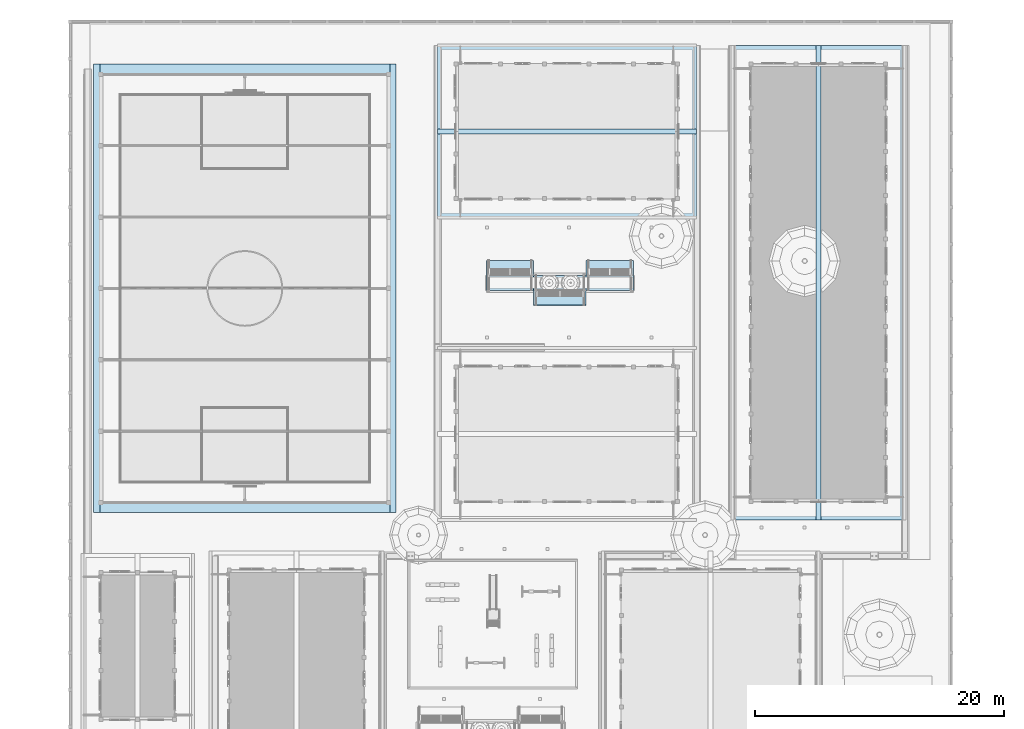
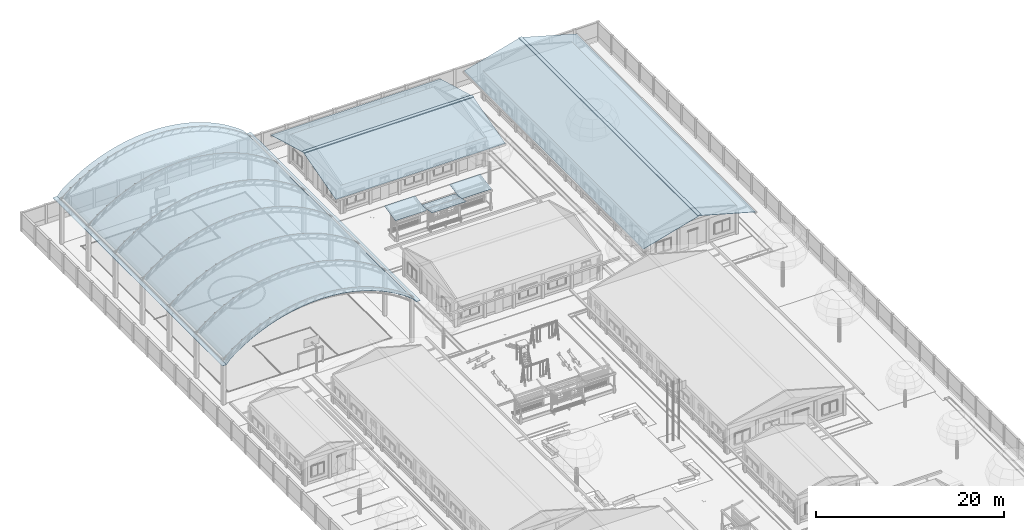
# One storey, part 41 of 177: 8 roofs.
"""IFC4 building model written with IfcOpenShell, lengths in metres."""

from ifc_helpers import new_model, si_unit, origin, origin_with_axes, place, context, subcontext, project, spatial, triangles, element, save


model = new_model("IFC4")

# Units and contexts
model_context = context("Model", 3, precision=1e-05, world=origin_with_axes())
body_context = subcontext(model_context, "Body", "Model", "MODEL_VIEW")
ifc_project = project(units=[si_unit("LENGTHUNIT", "METRE"), si_unit("AREAUNIT", "SQUARE_METRE"), si_unit("VOLUMEUNIT", "CUBIC_METRE"), si_unit("PLANEANGLEUNIT", "RADIAN")], contexts=[model_context])

# Site, building, storey
site_placement = place(None, origin_with_axes())
site = spatial("IfcSite", under=ifc_project, at=site_placement, Name="Predio Los Mangos - Morales, San Martín", CompositionType="ELEMENT")
building_placement = place(site_placement, origin())
building = spatial("IfcBuilding", under=site, at=building_placement, Name="Hogar de Refugio Temporal", CompositionType="ELEMENT")
storey_placement = place(building_placement, origin())
storey = spatial("IfcBuildingStorey", under=building, at=storey_placement, Name="NIVEL 1 (NPT +0.00)", CompositionType="ELEMENT", Elevation=0.0)

# Roofs
roof_1_placement = place(storey_placement, origin())
element("IfcRoof", 1, at=roof_1_placement, inside=storey, Name="E-08_techo", ObjectType="Cobertura", PredefinedType="NOTDEFINED", context=body_context, shape_type="Tessellation", body=[
    triangles([(30.5, 115.5, 3.33), (51.3, 115.5, 3.33), (51.3, 122.4, 5.262), (30.5, 122.4, 5.262), (51.3, 129.3, 3.33), (30.5, 129.3, 3.33), (30.5, 115.5135, 3.2819), (51.3, 115.5135, 3.2819), (51.3, 122.4, 5.212), (30.5, 122.4, 5.212), (51.3, 129.2865, 3.2819), (30.5, 129.2865, 3.2819)], [[1, 2, 3], [1, 3, 4], [4, 3, 5], [4, 5, 6], [7, 10, 9], [7, 9, 8], [10, 12, 11], [10, 11, 9], [1, 4, 10], [1, 10, 7], [2, 1, 7], [2, 7, 8], [3, 2, 8], [3, 8, 9], [4, 6, 12], [4, 12, 10], [5, 3, 9], [5, 9, 11], [6, 5, 11], [6, 11, 12]]),
])
roof_2_placement = place(storey_placement, origin())
element("IfcRoof", 2, at=roof_2_placement, inside=storey, Name="E-08_cumbrera", ObjectType="Cobertura", PredefinedType="NOTDEFINED", context=body_context, shape_type="Tessellation", body=[
    triangles([(30.5, 122.2, 5.242), (51.3, 122.2, 5.242), (51.3, 122.6, 5.242), (30.5, 122.6, 5.242), (30.5, 122.2, 5.322), (51.3, 122.2, 5.322), (51.3, 122.6, 5.322), (30.5, 122.6, 5.322)], [[1, 4, 3], [1, 3, 2], [5, 6, 7], [5, 7, 8], [1, 2, 6], [1, 6, 5], [2, 3, 7], [2, 7, 6], [3, 4, 8], [3, 8, 7], [4, 1, 5], [4, 5, 8]]),
])
roof_3_placement = place(storey_placement, origin())
element("IfcRoof", 3, at=roof_3_placement, inside=storey, Name="E-07_techo", ObjectType="Cobertura", PredefinedType="NOTDEFINED", context=body_context, shape_type="Tessellation", body=[
    triangles([(54.2, 91.2, 3.33), (61.1, 91.2, 5.262), (61.1, 129.3, 5.262), (54.2, 129.3, 3.33), (68.0, 91.2, 3.33), (68.0, 129.3, 3.33), (54.2135, 91.2, 3.2819), (61.1, 91.2, 5.212), (61.1, 129.3, 5.212), (54.2135, 129.3, 3.2819), (67.9865, 91.2, 3.2819), (67.9865, 129.3, 3.2819)], [[1, 2, 3], [1, 3, 4], [2, 5, 6], [2, 6, 3], [7, 10, 9], [7, 9, 8], [8, 9, 12], [8, 12, 11], [1, 4, 10], [1, 10, 7], [2, 1, 7], [2, 7, 8], [4, 3, 9], [4, 9, 10], [5, 2, 8], [5, 8, 11], [6, 5, 11], [6, 11, 12], [3, 6, 12], [3, 12, 9]]),
])
roof_4_placement = place(storey_placement, origin())
element("IfcRoof", 4, at=roof_4_placement, inside=storey, Name="E-07_cumbrera", ObjectType="Cobertura", PredefinedType="NOTDEFINED", context=body_context, shape_type="Tessellation", body=[
    triangles([(60.9, 91.2, 5.242), (61.3, 91.2, 5.242), (61.3, 129.3, 5.242), (60.9, 129.3, 5.242), (60.9, 91.2, 5.322), (61.3, 91.2, 5.322), (61.3, 129.3, 5.322), (60.9, 129.3, 5.322)], [[1, 4, 3], [1, 3, 2], [5, 6, 7], [5, 7, 8], [1, 2, 6], [1, 6, 5], [2, 3, 7], [2, 7, 6], [3, 4, 8], [3, 8, 7], [4, 1, 5], [4, 5, 8]]),
])
roof_5_placement = place(storey_placement, origin())
element("IfcRoof", 5, at=roof_5_placement, inside=storey, Name="cubierta_losa", ObjectType="Cobertura", PredefinedType="NOTDEFINED", context=body_context, shape_type="Tessellation", body=[
    triangles([(2.9, 91.8, 5.77), (3.4062, 91.8, 5.77), (3.9125, 91.8, 6.3555), (4.4187, 91.8, 6.7405), (4.925, 91.8, 7.0984), (5.4313, 91.8, 7.431), (5.9375, 91.8, 7.74), (6.4437, 91.8, 8.0267), (6.95, 91.8, 8.2923), (7.4563, 91.8, 8.5378), (7.9625, 91.8, 8.7643), (8.4688, 91.8, 8.9723), (8.975, 91.8, 9.1627), (9.4812, 91.8, 9.336), (9.9875, 91.8, 9.4926), (10.4937, 91.8, 9.6332), (11.0, 91.8, 9.758), (11.5063, 91.8, 9.8673), (12.0125, 91.8, 9.9616), (12.5188, 91.8, 10.0409), (13.025, 91.8, 10.1056), (13.5312, 91.8, 10.1557), (14.0375, 91.8, 10.1915), (14.5437, 91.8, 10.2129), (15.05, 91.8, 10.22), (15.5562, 91.8, 10.2129), (16.0625, 91.8, 10.1915), (16.5688, 91.8, 10.1557), (17.075, 91.8, 10.1056), (17.5812, 91.8, 10.0409), (18.0875, 91.8, 9.9616), (18.5938, 91.8, 9.8673), (19.1, 91.8, 9.758), (19.6063, 91.8, 9.6332), (20.1125, 91.8, 9.4926), (20.6187, 91.8, 9.336), (21.125, 91.8, 9.1627), (21.6313, 91.8, 8.9723), (22.1375, 91.8, 8.7643), (22.6437, 91.8, 8.5378), (23.15, 91.8, 8.2923), (23.6562, 91.8, 8.0267), (24.1625, 91.8, 7.74), (24.6688, 91.8, 7.431), (25.175, 91.8, 7.0984), (25.6812, 91.8, 6.7405), (26.1875, 91.8, 6.3555), (26.6938, 91.8, 5.77), (27.2, 91.8, 5.77), (2.9, 127.8, 5.77), (3.4062, 127.8, 5.77), (3.9125, 127.8, 6.3555), (4.4187, 127.8, 6.7405), (4.925, 127.8, 7.0984), (5.4313, 127.8, 7.431), (5.9375, 127.8, 7.74), (6.4437, 127.8, 8.0267), (6.95, 127.8, 8.2923), (7.4563, 127.8, 8.5378), (7.9625, 127.8, 8.7643), (8.4688, 127.8, 8.9723), (8.975, 127.8, 9.1627), (9.4812, 127.8, 9.336), (9.9875, 127.8, 9.4926), (10.4937, 127.8, 9.6332), (11.0, 127.8, 9.758), (11.5063, 127.8, 9.8673), (12.0125, 127.8, 9.9616), (12.5188, 127.8, 10.0409), (13.025, 127.8, 10.1056), (13.5312, 127.8, 10.1557), (14.0375, 127.8, 10.1915), (14.5437, 127.8, 10.2129), (15.05, 127.8, 10.22), (15.5562, 127.8, 10.2129), (16.0625, 127.8, 10.1915), (16.5688, 127.8, 10.1557), (17.075, 127.8, 10.1056), (17.5812, 127.8, 10.0409), (18.0875, 127.8, 9.9616), (18.5938, 127.8, 9.8673), (19.1, 127.8, 9.758), (19.6063, 127.8, 9.6332), (20.1125, 127.8, 9.4926), (20.6187, 127.8, 9.336), (21.125, 127.8, 9.1627), (21.6313, 127.8, 8.9723), (22.1375, 127.8, 8.7643), (22.6437, 127.8, 8.5378), (23.15, 127.8, 8.2923), (23.6562, 127.8, 8.0267), (24.1625, 127.8, 7.74), (24.6688, 127.8, 7.431), (25.175, 127.8, 7.0984), (25.6812, 127.8, 6.7405), (26.1875, 127.8, 6.3555), (26.6938, 127.8, 5.77), (27.2, 127.8, 5.77), (2.9, 91.8, 5.73), (3.4229, 91.8, 5.7336), (3.9399, 91.8, 6.3263), (4.4424, 91.8, 6.7083), (4.9475, 91.8, 7.0654), (5.4527, 91.8, 7.3972), (5.9578, 91.8, 7.7055), (6.4629, 91.8, 7.9915), (6.968, 91.8, 8.2566), (7.4731, 91.8, 8.5016), (7.9783, 91.8, 8.7275), (8.4834, 91.8, 8.9351), (8.9885, 91.8, 9.125), (9.4936, 91.8, 9.2979), (9.9988, 91.8, 9.4543), (10.5039, 91.8, 9.5945), (11.009, 91.8, 9.719), (11.5141, 91.8, 9.8281), (12.0193, 91.8, 9.9222), (12.5244, 91.8, 10.0013), (13.0295, 91.8, 10.0659), (13.5346, 91.8, 10.1159), (14.0398, 91.8, 10.1515), (14.5449, 91.8, 10.1729), (15.05, 91.8, 10.18), (15.5551, 91.8, 10.1729), (16.0602, 91.8, 10.1515), (16.5654, 91.8, 10.1159), (17.0705, 91.8, 10.0659), (17.5756, 91.8, 10.0013), (18.0807, 91.8, 9.9222), (18.5859, 91.8, 9.8281), (19.091, 91.8, 9.719), (19.5961, 91.8, 9.5945), (20.1012, 91.8, 9.4543), (20.6064, 91.8, 9.2979), (21.1115, 91.8, 9.125), (21.6166, 91.8, 8.9351), (22.1217, 91.8, 8.7275), (22.6269, 91.8, 8.5016), (23.132, 91.8, 8.2566), (23.6371, 91.8, 7.9915), (24.1422, 91.8, 7.7055), (24.6473, 91.8, 7.3972), (25.1525, 91.8, 7.0654), (25.6576, 91.8, 6.7083), (26.1601, 91.8, 6.3263), (26.6771, 91.8, 5.7336), (27.2, 91.8, 5.73), (2.9, 127.8, 5.73), (3.4229, 127.8, 5.7336), (3.9399, 127.8, 6.3263), (4.4424, 127.8, 6.7083), (4.9475, 127.8, 7.0654), (5.4527, 127.8, 7.3972), (5.9578, 127.8, 7.7055), (6.4629, 127.8, 7.9915), (6.968, 127.8, 8.2566), (7.4731, 127.8, 8.5016), (7.9783, 127.8, 8.7275), (8.4834, 127.8, 8.9351), (8.9885, 127.8, 9.125), (9.4936, 127.8, 9.2979), (9.9988, 127.8, 9.4543), (10.5039, 127.8, 9.5945), (11.009, 127.8, 9.719), (11.5141, 127.8, 9.8281), (12.0193, 127.8, 9.9222), (12.5244, 127.8, 10.0013), (13.0295, 127.8, 10.0659), (13.5346, 127.8, 10.1159), (14.0398, 127.8, 10.1515), (14.5449, 127.8, 10.1729), (15.05, 127.8, 10.18), (15.5551, 127.8, 10.1729), (16.0602, 127.8, 10.1515), (16.5654, 127.8, 10.1159), (17.0705, 127.8, 10.0659), (17.5756, 127.8, 10.0013), (18.0807, 127.8, 9.9222), (18.5859, 127.8, 9.8281), (19.091, 127.8, 9.719), (19.5961, 127.8, 9.5945), (20.1012, 127.8, 9.4543), (20.6064, 127.8, 9.2979), (21.1115, 127.8, 9.125), (21.6166, 127.8, 8.9351), (22.1217, 127.8, 8.7275), (22.6269, 127.8, 8.5016), (23.132, 127.8, 8.2566), (23.6371, 127.8, 7.9915), (24.1422, 127.8, 7.7055), (24.6473, 127.8, 7.3972), (25.1525, 127.8, 7.0654), (25.6576, 127.8, 6.7083), (26.1601, 127.8, 6.3263), (26.6771, 127.8, 5.7336), (27.2, 127.8, 5.73)], [[1, 2, 51], [1, 51, 50], [2, 3, 52], [2, 52, 51], [3, 4, 53], [3, 53, 52], [4, 5, 54], [4, 54, 53], [5, 6, 55], [5, 55, 54], [6, 7, 56], [6, 56, 55], [7, 8, 57], [7, 57, 56], [8, 9, 58], [8, 58, 57], [9, 10, 59], [9, 59, 58], [10, 11, 60], [10, 60, 59], [11, 12, 61], [11, 61, 60], [12, 13, 62], [12, 62, 61], [13, 14, 63], [13, 63, 62], [14, 15, 64], [14, 64, 63], [15, 16, 65], [15, 65, 64], [16, 17, 66], [16, 66, 65], [17, 18, 67], [17, 67, 66], [18, 19, 68], [18, 68, 67], [19, 20, 69], [19, 69, 68], [20, 21, 70], [20, 70, 69], [21, 22, 71], [21, 71, 70], [22, 23, 72], [22, 72, 71], [23, 24, 73], [23, 73, 72], [24, 25, 74], [24, 74, 73], [25, 26, 75], [25, 75, 74], [26, 27, 76], [26, 76, 75], [27, 28, 77], [27, 77, 76], [28, 29, 78], [28, 78, 77], [29, 30, 79], [29, 79, 78], [30, 31, 80], [30, 80, 79], [31, 32, 81], [31, 81, 80], [32, 33, 82], [32, 82, 81], [33, 34, 83], [33, 83, 82], [34, 35, 84], [34, 84, 83], [35, 36, 85], [35, 85, 84], [36, 37, 86], [36, 86, 85], [37, 38, 87], [37, 87, 86], [38, 39, 88], [38, 88, 87], [39, 40, 89], [39, 89, 88], [40, 41, 90], [40, 90, 89], [41, 42, 91], [41, 91, 90], [42, 43, 92], [42, 92, 91], [43, 44, 93], [43, 93, 92], [44, 45, 94], [44, 94, 93], [45, 46, 95], [45, 95, 94], [46, 47, 96], [46, 96, 95], [47, 48, 97], [47, 97, 96], [48, 49, 98], [48, 98, 97], [99, 148, 149], [99, 149, 100], [100, 149, 150], [100, 150, 101], [101, 150, 151], [101, 151, 102], [102, 151, 152], [102, 152, 103], [103, 152, 153], [103, 153, 104], [104, 153, 154], [104, 154, 105], [105, 154, 155], [105, 155, 106], [106, 155, 156], [106, 156, 107], [107, 156, 157], [107, 157, 108], [108, 157, 158], [108, 158, 109], [109, 158, 159], [109, 159, 110], [110, 159, 160], [110, 160, 111], [111, 160, 161], [111, 161, 112], [112, 161, 162], [112, 162, 113], [113, 162, 163], [113, 163, 114], [114, 163, 164], [114, 164, 115], [115, 164, 165], [115, 165, 116], [116, 165, 166], [116, 166, 117], [117, 166, 167], [117, 167, 118], [118, 167, 168], [118, 168, 119], [119, 168, 169], [119, 169, 120], [120, 169, 170], [120, 170, 121], [121, 170, 171], [121, 171, 122], [122, 171, 172], [122, 172, 123], [123, 172, 173], [123, 173, 124], [124, 173, 174], [124, 174, 125], [125, 174, 175], [125, 175, 126], [126, 175, 176], [126, 176, 127], [127, 176, 177], [127, 177, 128], [128, 177, 178], [128, 178, 129], [129, 178, 179], [129, 179, 130], [130, 179, 180], [130, 180, 131], [131, 180, 181], [131, 181, 132], [132, 181, 182], [132, 182, 133], [133, 182, 183], [133, 183, 134], [134, 183, 184], [134, 184, 135], [135, 184, 185], [135, 185, 136], [136, 185, 186], [136, 186, 137], [137, 186, 187], [137, 187, 138], [138, 187, 188], [138, 188, 139], [139, 188, 189], [139, 189, 140], [140, 189, 190], [140, 190, 141], [141, 190, 191], [141, 191, 142], [142, 191, 192], [142, 192, 143], [143, 192, 193], [143, 193, 144], [144, 193, 194], [144, 194, 145], [145, 194, 195], [145, 195, 146], [146, 195, 196], [146, 196, 147], [1, 50, 148], [1, 148, 99], [2, 1, 99], [2, 99, 100], [50, 51, 149], [50, 149, 148], [3, 2, 100], [3, 100, 101], [51, 52, 150], [51, 150, 149], [4, 3, 101], [4, 101, 102], [52, 53, 151], [52, 151, 150], [5, 4, 102], [5, 102, 103], [53, 54, 152], [53, 152, 151], [6, 5, 103], [6, 103, 104], [54, 55, 153], [54, 153, 152], [7, 6, 104], [7, 104, 105], [55, 56, 154], [55, 154, 153], [8, 7, 105], [8, 105, 106], [56, 57, 155], [56, 155, 154], [9, 8, 106], [9, 106, 107], [57, 58, 156], [57, 156, 155], [10, 9, 107], [10, 107, 108], [58, 59, 157], [58, 157, 156], [11, 10, 108], [11, 108, 109], [59, 60, 158], [59, 158, 157], [12, 11, 109], [12, 109, 110], [60, 61, 159], [60, 159, 158], [13, 12, 110], [13, 110, 111], [61, 62, 160], [61, 160, 159], [14, 13, 111], [14, 111, 112], [62, 63, 161], [62, 161, 160], [15, 14, 112], [15, 112, 113], [63, 64, 162], [63, 162, 161], [16, 15, 113], [16, 113, 114], [64, 65, 163], [64, 163, 162], [17, 16, 114], [17, 114, 115], [65, 66, 164], [65, 164, 163], [18, 17, 115], [18, 115, 116], [66, 67, 165], [66, 165, 164], [19, 18, 116], [19, 116, 117], [67, 68, 166], [67, 166, 165], [20, 19, 117], [20, 117, 118], [68, 69, 167], [68, 167, 166], [21, 20, 118], [21, 118, 119], [69, 70, 168], [69, 168, 167], [22, 21, 119], [22, 119, 120], [70, 71, 169], [70, 169, 168], [23, 22, 120], [23, 120, 121], [71, 72, 170], [71, 170, 169], [24, 23, 121], [24, 121, 122], [72, 73, 171], [72, 171, 170], [25, 24, 122], [25, 122, 123], [73, 74, 172], [73, 172, 171], [26, 25, 123], [26, 123, 124], [74, 75, 173], [74, 173, 172], [27, 26, 124], [27, 124, 125], [75, 76, 174], [75, 174, 173], [28, 27, 125], [28, 125, 126], [76, 77, 175], [76, 175, 174], [29, 28, 126], [29, 126, 127], [77, 78, 176], [77, 176, 175], [30, 29, 127], [30, 127, 128], [78, 79, 177], [78, 177, 176], [31, 30, 128], [31, 128, 129], [79, 80, 178], [79, 178, 177], [32, 31, 129], [32, 129, 130], [80, 81, 179], [80, 179, 178], [33, 32, 130], [33, 130, 131], [81, 82, 180], [81, 180, 179], [34, 33, 131], [34, 131, 132], [82, 83, 181], [82, 181, 180], [35, 34, 132], [35, 132, 133], [83, 84, 182], [83, 182, 181], [36, 35, 133], [36, 133, 134], [84, 85, 183], [84, 183, 182], [37, 36, 134], [37, 134, 135], [85, 86, 184], [85, 184, 183], [38, 37, 135], [38, 135, 136], [86, 87, 185], [86, 185, 184], [39, 38, 136], [39, 136, 137], [87, 88, 186], [87, 186, 185], [40, 39, 137], [40, 137, 138], [88, 89, 187], [88, 187, 186], [41, 40, 138], [41, 138, 139], [89, 90, 188], [89, 188, 187], [42, 41, 139], [42, 139, 140], [90, 91, 189], [90, 189, 188], [43, 42, 140], [43, 140, 141], [91, 92, 190], [91, 190, 189], [44, 43, 141], [44, 141, 142], [92, 93, 191], [92, 191, 190], [45, 44, 142], [45, 142, 143], [93, 94, 192], [93, 192, 191], [46, 45, 143], [46, 143, 144], [94, 95, 193], [94, 193, 192], [47, 46, 144], [47, 144, 145], [95, 96, 194], [95, 194, 193], [48, 47, 145], [48, 145, 146], [96, 97, 195], [96, 195, 194], [49, 48, 146], [49, 146, 147], [98, 49, 147], [98, 147, 196], [97, 98, 196], [97, 196, 195]]),
])
roof_6_placement = place(storey_placement, origin())
element("IfcRoof", 6, at=roof_6_placement, inside=storey, Name="oc01_cobertura_aluzinc", ObjectType="Cobertura", PredefinedType="NOTDEFINED", context=body_context, shape_type="Tessellation", body=[
    triangles([(46.245, 109.65, 2.7), (42.455, 109.65, 2.7), (42.455, 112.05, 3.16), (46.245, 112.05, 3.16), (46.245, 109.6444, 2.7295), (42.455, 109.6444, 2.7295), (42.455, 112.0444, 3.1895), (46.245, 112.0444, 3.1895)], [[1, 2, 3], [1, 3, 4], [5, 8, 7], [5, 7, 6], [1, 4, 8], [1, 8, 5], [2, 1, 5], [2, 5, 6], [3, 2, 6], [3, 6, 7], [4, 3, 7], [4, 7, 8]]),
])
roof_7_placement = place(storey_placement, origin())
element("IfcRoof", 7, at=roof_7_placement, inside=storey, Name="oc01_cobertura_aluzinc", ObjectType="Cobertura", PredefinedType="NOTDEFINED", context=body_context, shape_type="Tessellation", body=[
    triangles([(42.455, 110.85, 2.7), (38.245, 110.85, 2.7), (38.245, 108.45, 3.16), (42.455, 108.45, 3.16), (42.455, 110.8444, 2.6705), (38.245, 110.8444, 2.6705), (38.245, 108.4444, 3.1305), (42.455, 108.4444, 3.1305)], [[1, 2, 3], [1, 3, 4], [5, 8, 7], [5, 7, 6], [1, 4, 8], [1, 8, 5], [2, 1, 5], [2, 5, 6], [3, 2, 6], [3, 6, 7], [4, 3, 7], [4, 7, 8]]),
])
roof_8_placement = place(storey_placement, origin())
element("IfcRoof", 8, at=roof_8_placement, inside=storey, Name="oc01_cobertura_aluzinc", ObjectType="Cobertura", PredefinedType="NOTDEFINED", context=body_context, shape_type="Tessellation", body=[
    triangles([(38.245, 109.65, 2.7), (34.455, 109.65, 2.7), (34.455, 112.05, 3.16), (38.245, 112.05, 3.16), (38.245, 109.6444, 2.7295), (34.455, 109.6444, 2.7295), (34.455, 112.0444, 3.1895), (38.245, 112.0444, 3.1895)], [[1, 2, 3], [1, 3, 4], [5, 8, 7], [5, 7, 6], [1, 4, 8], [1, 8, 5], [2, 1, 5], [2, 5, 6], [3, 2, 6], [3, 6, 7], [4, 3, 7], [4, 7, 8]]),
])

save(model, "model.ifc")
